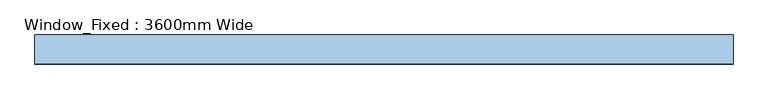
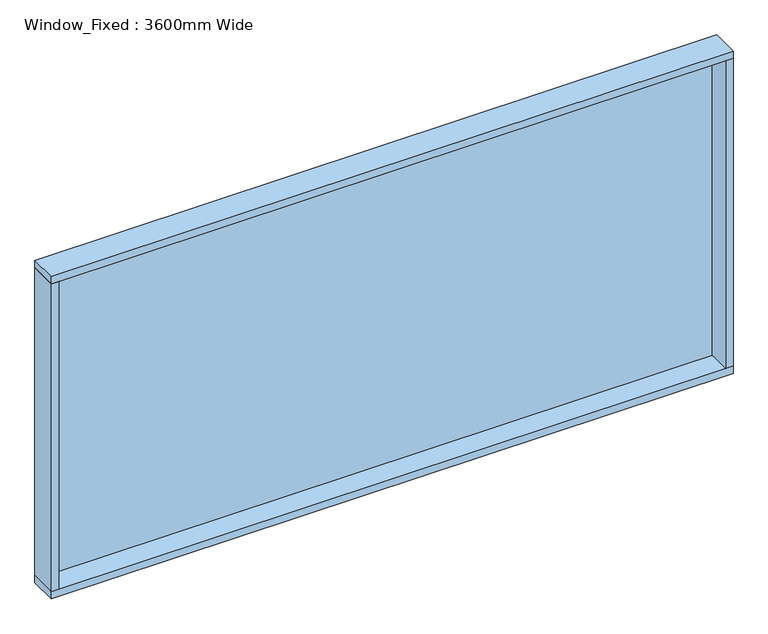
"""IFC4 building model written with IfcOpenShell, lengths in millimetres: window geometry, Window_Fixed : 3600mm Wide."""

from ifc_helpers import new_model, si_unit, frame, origin, place, context, project, spatial, polyline, outline, extrude, source, transform, mapped, element, save


def window_fixed_3600mm_wide_8deb48f9(model_context):
    return source(origin(), model_context, "Body", "SweptSolid", [
        extrude(outline(polyline([(1760.0, 120.0), (1760.0, 108.0), (-1760.0, 108.0), (-1760.0, 120.0), (1760.0, 120.0)])), frame((0.0, 0.0, 290.0), z_axis=(0.0, 0.0, 1.0), x_axis=(1.0, 0.0, 0.0)), (0.0, 0.0, 1.0), 1720.0),
        extrude(outline(polyline([(1800.0, 135.0), (1800.0, -15.0), (-1800.0, -15.0), (-1800.0, 135.0), (1800.0, 135.0)])), frame((0.0, 0.0, 2010.0), z_axis=(0.0, 0.0, 1.0), x_axis=(1.0, 0.0, 0.0)), (0.0, 0.0, 1.0), 40.0),
        extrude(outline(polyline([(1800.0, 135.0), (1800.0, -15.0), (-1800.0, -15.0), (-1800.0, 135.0), (1800.0, 135.0)])), frame((0.0, 0.0, 250.0), z_axis=(0.0, 0.0, 1.0), x_axis=(1.0, 0.0, 0.0)), (0.0, 0.0, 1.0), 40.0),
        extrude(outline(polyline([(-1760.0, -15.0), (-1800.0, -15.0), (-1800.0, 135.0), (-1760.0, 135.0), (-1760.0, -15.0)])), frame((0.0, 0.0, 290.0), z_axis=(0.0, 0.0, 1.0), x_axis=(1.0, 0.0, 0.0)), (0.0, 0.0, 1.0), 1720.0),
        extrude(outline(polyline([(1760.0, -15.0), (1760.0, 135.0), (1800.0, 135.0), (1800.0, -15.0), (1760.0, -15.0)])), frame((0.0, 0.0, 290.0), z_axis=(0.0, 0.0, 1.0), x_axis=(1.0, 0.0, 0.0)), (0.0, 0.0, 1.0), 1720.0),
    ])


if __name__ == "__main__":
    model = new_model("IFC4")
    model_context = context("Model", 3, world=origin())
    ifc_project = project(units=[si_unit("LENGTHUNIT", "METRE", prefix="MILLI")], contexts=[model_context])
    site = spatial("IfcSite", under=ifc_project)
    building = spatial("IfcBuilding", under=site)
    placement = place(None, origin())
    window_fixed_3600mm_wide_shape = window_fixed_3600mm_wide_8deb48f9(model_context)
    element("IfcWindow", 1, ObjectType="Window_Fixed : 3600mm Wide", at=placement, inside=building, context=model_context, shape_type="MappedRepresentation", body=[
        mapped(window_fixed_3600mm_wide_shape, transform((0.0, 0.0, 0.0), x_axis=(1.0, 0.0, 0.0), y_axis=(0.0, 1.0, 0.0), z_axis=(0.0, 0.0, 1.0))),
    ])
    save(model, "model.ifc")
